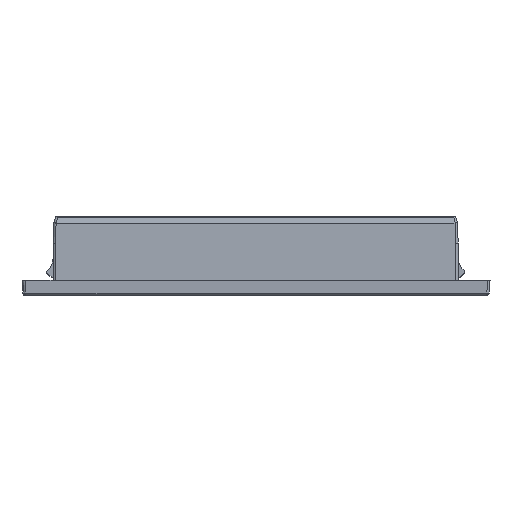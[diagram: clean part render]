
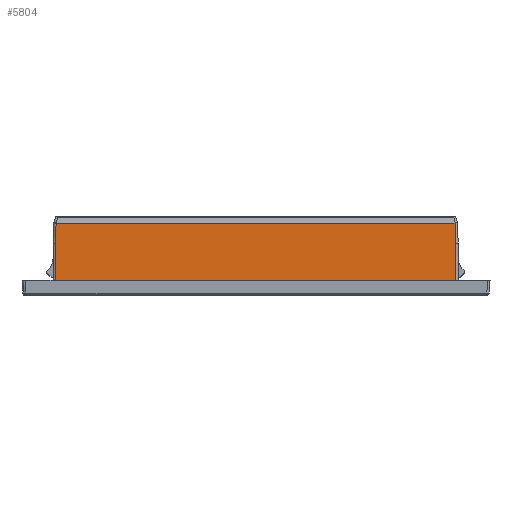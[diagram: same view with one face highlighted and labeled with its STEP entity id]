
A CAD part, left-side view. The second image highlights one B-rep face of the part: STEP entity #5804.
In plain terms, the highlighted planar face has unit normal (-1, 0, 0).
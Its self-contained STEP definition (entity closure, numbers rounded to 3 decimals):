
#2969=FACE_OUTER_BOUND('',#15398,.T.);
#5804=ADVANCED_FACE('',(#2969),#8353,.T.);
#8353=PLANE('',#51635);
#9692=B_SPLINE_CURVE_WITH_KNOTS('',3,(#82229,#82230,#82231,#82232),
 .UNSPECIFIED.,.F.,.F.,(4,4),(0.,1.),.UNSPECIFIED.);
#9693=B_SPLINE_CURVE_WITH_KNOTS('',3,(#82234,#82235,#82236,#82237),
 .UNSPECIFIED.,.F.,.F.,(4,4),(0.,1.),.UNSPECIFIED.);
#9694=B_SPLINE_CURVE_WITH_KNOTS('',3,(#82239,#82240,#82241,#82242),
 .UNSPECIFIED.,.F.,.F.,(4,4),(0.,1.),.UNSPECIFIED.);
#15398=EDGE_LOOP('',(#21764,#21765,#21766,#21767,#21768,#21769,#21770,#21771,
#21772,#21773));
#21764=ORIENTED_EDGE('',*,*,#40281,.T.);
#21765=ORIENTED_EDGE('',*,*,#40302,.T.);
#21766=ORIENTED_EDGE('',*,*,#40303,.T.);
#21767=ORIENTED_EDGE('',*,*,#40304,.T.);
#21768=ORIENTED_EDGE('',*,*,#40305,.T.);
#21769=ORIENTED_EDGE('',*,*,#40306,.T.);
#21770=ORIENTED_EDGE('',*,*,#40307,.T.);
#21771=ORIENTED_EDGE('',*,*,#40282,.T.);
#21772=ORIENTED_EDGE('',*,*,#40277,.T.);
#21773=ORIENTED_EDGE('',*,*,#40276,.T.);
#34824=VERTEX_POINT('',#82168);
#34825=VERTEX_POINT('',#82170);
#34826=VERTEX_POINT('',#82172);
#34827=VERTEX_POINT('',#82177);
#34828=VERTEX_POINT('',#82181);
#34840=VERTEX_POINT('',#82226);
#34841=VERTEX_POINT('',#82228);
#34842=VERTEX_POINT('',#82233);
#34843=VERTEX_POINT('',#82238);
#34844=VERTEX_POINT('',#82243);
#40276=EDGE_CURVE('',#34825,#34824,#46789,.T.);
#40277=EDGE_CURVE('',#34826,#34825,#46790,.T.);
#40281=EDGE_CURVE('',#34824,#34827,#46792,.T.);
#40282=EDGE_CURVE('',#34828,#34826,#46793,.T.);
#40302=EDGE_CURVE('',#34827,#34840,#46804,.T.);
#40303=EDGE_CURVE('',#34840,#34841,#46805,.T.);
#40304=EDGE_CURVE('',#34841,#34842,#9692,.T.);
#40305=EDGE_CURVE('',#34842,#34843,#9693,.T.);
#40306=EDGE_CURVE('',#34843,#34844,#9694,.T.);
#40307=EDGE_CURVE('',#34844,#34828,#46806,.T.);
#46789=LINE('',#82169,#49124);
#46790=LINE('',#82171,#49125);
#46792=LINE('',#82178,#49127);
#46793=LINE('',#82180,#49128);
#46804=LINE('',#82225,#49139);
#46805=LINE('',#82227,#49140);
#46806=LINE('',#82244,#49141);
#49124=VECTOR('',#59085,1.);
#49125=VECTOR('',#59086,1.);
#49127=VECTOR('',#59094,1.);
#49128=VECTOR('',#59097,1.);
#49139=VECTOR('',#59136,1.);
#49140=VECTOR('',#59137,1.);
#49141=VECTOR('',#59138,1.);
#51635=AXIS2_PLACEMENT_3D('',#82245,#59139,#59140);
#59085=DIRECTION('',(0.,-1.,0.));
#59086=DIRECTION('',(0.,-1.,0.));
#59094=DIRECTION('',(0.,0.,1.));
#59097=DIRECTION('',(0.,0.,-1.));
#59136=DIRECTION('',(0.,0.026,1.));
#59137=DIRECTION('',(0.,1.,0.));
#59138=DIRECTION('',(0.,0.026,-1.));
#59139=DIRECTION('',(-1.,0.,0.));
#59140=DIRECTION('',(0.,0.,-1.));
#82168=CARTESIAN_POINT('',(-193.317,-648.279,-2.14));
#82169=CARTESIAN_POINT('',(-193.317,-588.65,-2.14));
#82170=CARTESIAN_POINT('',(-193.317,-645.386,-2.14));
#82171=CARTESIAN_POINT('',(-193.317,-588.65,-2.14));
#82172=CARTESIAN_POINT('',(-193.317,-472.535,-2.14));
#82177=CARTESIAN_POINT('',(-193.317,-648.279,14.2));
#82178=CARTESIAN_POINT('',(-193.317,-648.279,-6.26));
#82180=CARTESIAN_POINT('',(-193.317,-472.535,-2.14));
#82181=CARTESIAN_POINT('',(-193.317,-472.535,14.2));
#82225=CARTESIAN_POINT('',(-193.317,-648.079,21.858));
#82226=CARTESIAN_POINT('',(-193.317,-648.049,22.985));
#82227=CARTESIAN_POINT('',(-193.317,-602.691,22.985));
#82228=CARTESIAN_POINT('',(-193.317,-647.39,22.985));
#82229=CARTESIAN_POINT('',(-193.317,-647.39,22.985));
#82230=CARTESIAN_POINT('',(-193.317,-619.139,22.985));
#82231=CARTESIAN_POINT('',(-193.317,-590.887,22.985));
#82232=CARTESIAN_POINT('',(-193.317,-562.635,22.985));
#82233=CARTESIAN_POINT('',(-193.317,-562.635,22.985));
#82234=CARTESIAN_POINT('',(-193.317,-562.635,22.985));
#82235=CARTESIAN_POINT('',(-193.317,-561.15,22.985));
#82236=CARTESIAN_POINT('',(-193.317,-559.664,22.985));
#82237=CARTESIAN_POINT('',(-193.317,-558.179,22.985));
#82238=CARTESIAN_POINT('',(-193.317,-558.179,22.985));
#82239=CARTESIAN_POINT('',(-193.317,-558.179,22.985));
#82240=CARTESIAN_POINT('',(-193.317,-529.707,22.985));
#82241=CARTESIAN_POINT('',(-193.317,-501.236,22.985));
#82242=CARTESIAN_POINT('',(-193.317,-472.765,22.985));
#82243=CARTESIAN_POINT('',(-193.317,-472.765,22.985));
#82244=CARTESIAN_POINT('',(-193.317,-472.534,14.187));
#82245=CARTESIAN_POINT('',(-193.317,-538.358,-6.26));
